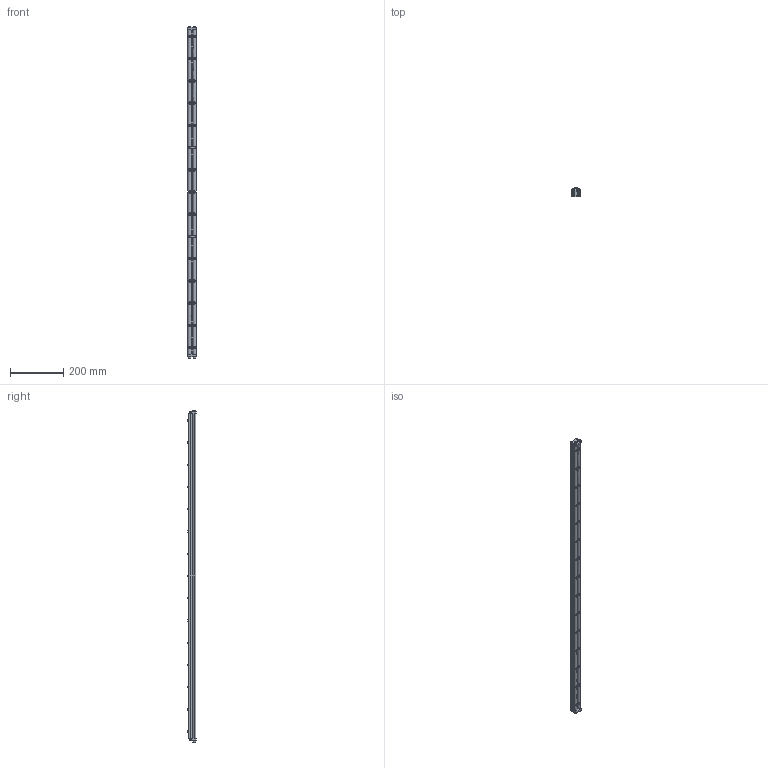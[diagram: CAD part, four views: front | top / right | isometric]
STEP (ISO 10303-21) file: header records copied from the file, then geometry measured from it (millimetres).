
FILE_DESCRIPTION((''),'2;1');
FILE_NAME('324948_ASM','2023-03-14T',('jenni.wallner'),(''),'PRO/ENGINEER BY PARAMETRIC TECHNOLOGY CORPORATION, 2012420','PRO/ENGINEER BY PARAMETRIC TECHNOLOGY CORPORATION, 2012420','');
FILE_SCHEMA(('CONFIG_CONTROL_DESIGN'));
Length unit declared in the file: inch
Products named in the file (7): 2410WW_CAE_241048; 240826; X920693M; 240827_CAE; 2436WW_243648; ASM0001_ASM; 324948_ASM
Assembly tree (24 placements, depth 3):
  324948_ASM
    ASM0001_ASM
      2410WW_CAE_241048
      240826  x15
      X920693M  x4
      240827_CAE  x2
      2436WW_243648
Bounding box: 30.88 x 33.34 x 1246.61 mm (x, y, z)
Volume: 592399.1 mm3; surface area: 351624.6 mm2
Topology: 23 solids, 23 shells, 867 faces, 2480 edges, 1637 vertices
Faces by surface type: cylinder 399, plane 284, cone 124, torus 60
Entity records: 21028 total; most frequent: CARTESIAN_POINT 5283, ORIENTED_EDGE 3464, DIRECTION 3287, EDGE_CURVE 1732, AXIS2_PLACEMENT_3D 1244, VERTEX_POINT 1157, VECTOR 799, LINE 799
